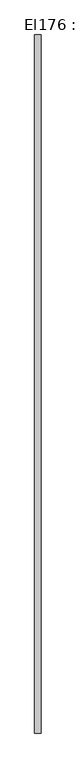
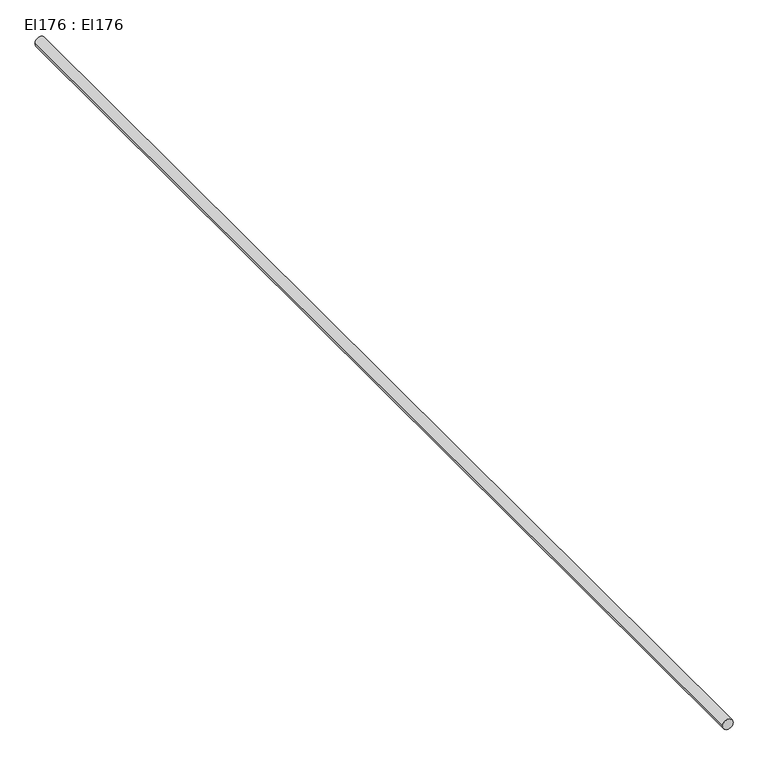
"""IFC4 building model written with IfcOpenShell, lengths in millimetres: cable carrier segment geometry, El176 : El176."""

from ifc_helpers import new_model, si_unit, point, frame, frame_2d, origin, place, context, project, spatial, circle_curve, trimmed, segment, composite_curve, outline, extrude, source, transform, mapped, element, save


def el176_el176_26e5bdc1(model_context):
    return source(origin(), model_context, "Body", "SweptSolid", [
        extrude(outline(composite_curve([segment(trimmed(circle_curve(frame_2d((300.0, 1300.0)), 9.5), [point((300.0, 1290.5))], [point((300.0, 1309.5))], False, "CARTESIAN"), True, "CONTINUOUS"), segment(trimmed(circle_curve(frame_2d((300.0, 1300.0)), 9.5), [point((300.0, 1309.5))], [point((300.0, 1290.5))], False, "CARTESIAN"), True, "CONTINUOUS")], self_intersect=False)), frame((0.0, 31039.07, 0.0), z_axis=(0.0, 1.0, 0.0), x_axis=(0.0, 0.0, 1.0)), (0.0, 0.0, 1.0), 2134.26),
    ])


if __name__ == "__main__":
    model = new_model("IFC4")
    model_context = context("Model", 3, world=origin())
    ifc_project = project(units=[si_unit("LENGTHUNIT", "METRE", prefix="MILLI")], contexts=[model_context])
    site = spatial("IfcSite", under=ifc_project)
    building = spatial("IfcBuilding", under=site)
    placement = place(None, origin())
    el176_el176_shape = el176_el176_26e5bdc1(model_context)
    element("IfcCableCarrierSegment", 1, ObjectType="El176 : El176", at=placement, inside=building, context=model_context, shape_type="MappedRepresentation", body=[
        mapped(el176_el176_shape, transform((0.0, 0.0, 0.0), x_axis=(1.0, 0.0, 0.0), y_axis=(0.0, 1.0, 0.0), z_axis=(0.0, 0.0, 1.0))),
    ])
    save(model, "model.ifc")
